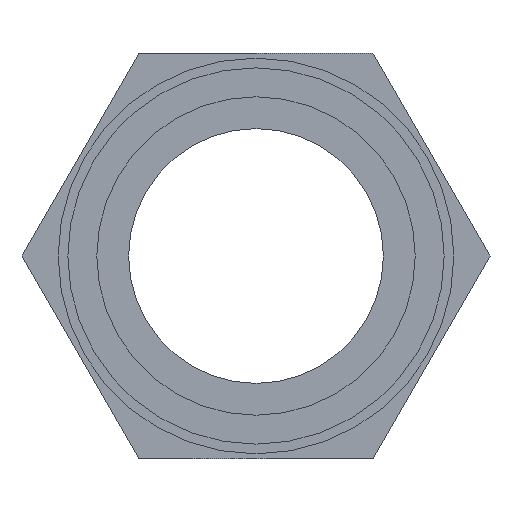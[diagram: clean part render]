
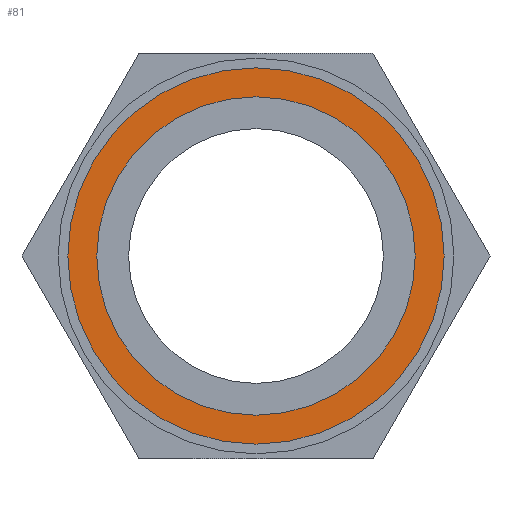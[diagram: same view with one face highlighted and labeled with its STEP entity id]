
A CAD part, left-side view. The second image highlights one B-rep face of the part: STEP entity #81.
In plain terms, the highlighted planar face has unit normal (-1, 0, 0).
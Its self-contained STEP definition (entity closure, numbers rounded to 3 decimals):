
#33 = EDGE_CURVE ( 'NONE', #515, #420, #705, .T. ) ;
#81 = ADVANCED_FACE ( 'NONE', ( #273, #637 ), #427, .F. ) ;
#84 = DIRECTION ( 'NONE',  ( 0., 0., 1. ) ) ;
#95 = CARTESIAN_POINT ( 'NONE',  ( 34., 0., 0. ) ) ;
#115 = DIRECTION ( 'NONE',  ( 0., 0., -1. ) ) ;
#116 = ORIENTED_EDGE ( 'NONE', *, *, #992, .T. ) ;
#118 = ORIENTED_EDGE ( 'NONE', *, *, #33, .T. ) ;
#121 = CIRCLE ( 'NONE', #838, 16.5 ) ;
#138 = CARTESIAN_POINT ( 'NONE',  ( 34., 0., 19.5 ) ) ;
#176 = DIRECTION ( 'NONE',  ( 0., 0., 1. ) ) ;
#273 = FACE_BOUND ( 'NONE', #375, .T. ) ;
#285 = EDGE_LOOP ( 'NONE', ( #116, #118 ) ) ;
#286 = DIRECTION ( 'NONE',  ( 1., 0., 0. ) ) ;
#334 = VERTEX_POINT ( 'NONE', #905 ) ;
#354 = CARTESIAN_POINT ( 'NONE',  ( 34., 16.5, 0. ) ) ;
#355 = DIRECTION ( 'NONE',  ( -1., 0., 0. ) ) ;
#375 = EDGE_LOOP ( 'NONE', ( #677, #570 ) ) ;
#407 = CIRCLE ( 'NONE', #457, 16.5 ) ;
#420 = VERTEX_POINT ( 'NONE', #138 ) ;
#427 = PLANE ( 'NONE',  #523 ) ;
#450 = DIRECTION ( 'NONE',  ( -1., 0., 0. ) ) ;
#457 = AXIS2_PLACEMENT_3D ( 'NONE', #1062, #569, #84 ) ;
#490 = AXIS2_PLACEMENT_3D ( 'NONE', #1023, #450, #947 ) ;
#515 = VERTEX_POINT ( 'NONE', #796 ) ;
#523 = AXIS2_PLACEMENT_3D ( 'NONE', #354, #286, #115 ) ;
#569 = DIRECTION ( 'NONE',  ( -1., 0., 0. ) ) ;
#570 = ORIENTED_EDGE ( 'NONE', *, *, #819, .F. ) ;
#598 = CARTESIAN_POINT ( 'NONE',  ( 34., 0., -16.5 ) ) ;
#637 = FACE_OUTER_BOUND ( 'NONE', #285, .T. ) ;
#660 = DIRECTION ( 'NONE',  ( -1., 0., 0. ) ) ;
#666 = CIRCLE ( 'NONE', #826, 19.5 ) ;
#677 = ORIENTED_EDGE ( 'NONE', *, *, #915, .F. ) ;
#705 = CIRCLE ( 'NONE', #490, 19.5 ) ;
#796 = CARTESIAN_POINT ( 'NONE',  ( 34., 0., -19.5 ) ) ;
#819 = EDGE_CURVE ( 'NONE', #1060, #334, #407, .T. ) ;
#826 = AXIS2_PLACEMENT_3D ( 'NONE', #841, #355, #928 ) ;
#838 = AXIS2_PLACEMENT_3D ( 'NONE', #95, #660, #176 ) ;
#841 = CARTESIAN_POINT ( 'NONE',  ( 34., 0., 0. ) ) ;
#905 = CARTESIAN_POINT ( 'NONE',  ( 34., 0., 16.5 ) ) ;
#915 = EDGE_CURVE ( 'NONE', #334, #1060, #121, .T. ) ;
#928 = DIRECTION ( 'NONE',  ( 0., 0., 1. ) ) ;
#947 = DIRECTION ( 'NONE',  ( 0., 0., 1. ) ) ;
#992 = EDGE_CURVE ( 'NONE', #420, #515, #666, .T. ) ;
#1023 = CARTESIAN_POINT ( 'NONE',  ( 34., 0., 0. ) ) ;
#1060 = VERTEX_POINT ( 'NONE', #598 ) ;
#1062 = CARTESIAN_POINT ( 'NONE',  ( 34., 0., 0. ) ) ;
